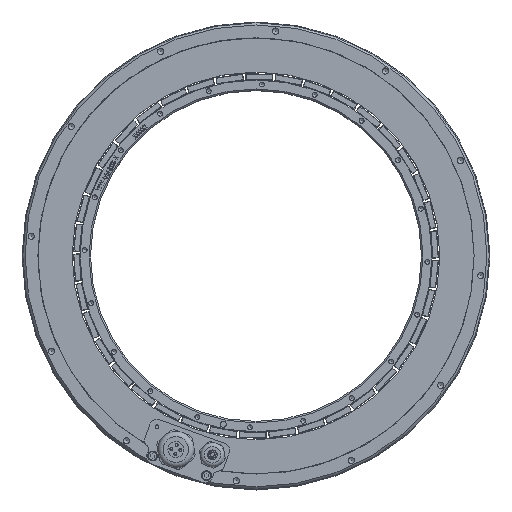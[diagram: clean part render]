
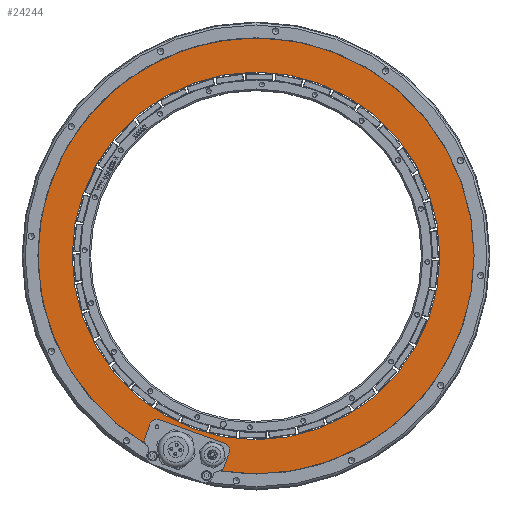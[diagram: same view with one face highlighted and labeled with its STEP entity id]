
A CAD part, top view. The second image highlights one B-rep face of the part: STEP entity #24244.
In plain terms, the highlighted planar face has unit normal (0, 0, 1).
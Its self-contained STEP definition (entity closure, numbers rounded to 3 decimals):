
#1654=PLANE('',#31029);
#3042=CIRCLE('',#31024,122.2);
#3044=CIRCLE('',#31027,145.);
#9618=ORIENTED_EDGE('',*,*,#12906,.T.);
#9619=ORIENTED_EDGE('',*,*,#12908,.F.);
#12906=EDGE_CURVE('',#14946,#14946,#3042,.T.);
#12908=EDGE_CURVE('',#14948,#14948,#3044,.T.);
#14946=VERTEX_POINT('',#47296);
#14948=VERTEX_POINT('',#47301);
#19774=EDGE_LOOP('',(#9618));
#19775=EDGE_LOOP('',(#9619));
#21874=FACE_BOUND('',#19774,.T.);
#21875=FACE_BOUND('',#19775,.T.);
#24244=ADVANCED_FACE('',(#21874,#21875),#1654,.F.);
#31024=AXIS2_PLACEMENT_3D('',#47295,#38604,#38605);
#31027=AXIS2_PLACEMENT_3D('',#47300,#38610,#38611);
#31029=AXIS2_PLACEMENT_3D('',#47304,#38614,#38615);
#38604=DIRECTION('',(0.,0.,-1.));
#38605=DIRECTION('',(1.,0.,0.));
#38610=DIRECTION('',(0.,0.,-1.));
#38611=DIRECTION('',(1.,0.,0.));
#38614=DIRECTION('',(0.,0.,-1.));
#38615=DIRECTION('',(-1.,0.,0.));
#47295=CARTESIAN_POINT('',(0.,0.,15.5));
#47296=CARTESIAN_POINT('',(122.2,0.,15.5));
#47300=CARTESIAN_POINT('',(0.,0.,15.5));
#47301=CARTESIAN_POINT('',(145.,0.,15.5));
#47304=CARTESIAN_POINT('',(0.,0.,15.5));
